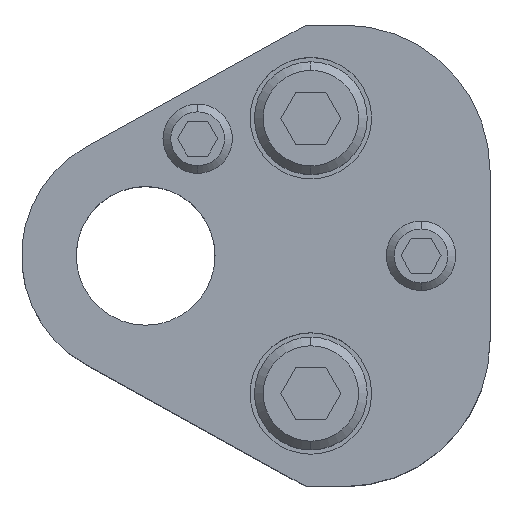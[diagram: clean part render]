
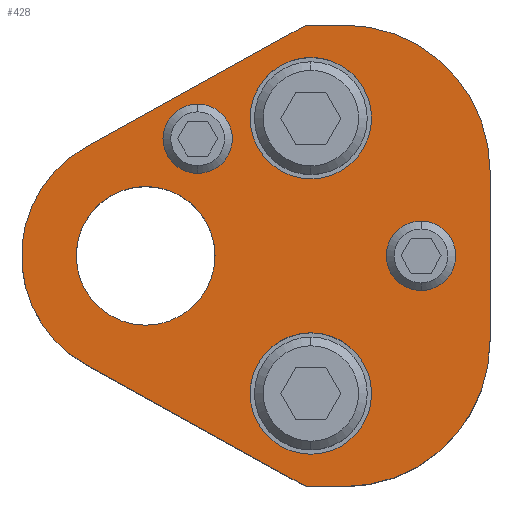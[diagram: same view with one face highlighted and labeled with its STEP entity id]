
A CAD part, top view. The second image highlights one B-rep face of the part: STEP entity #428.
In plain terms, the highlighted planar face has unit normal (0, 0, 1).
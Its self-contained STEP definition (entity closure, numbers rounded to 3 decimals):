
#198=FACE_BOUND('',#745,.T.);
#199=FACE_BOUND('',#746,.T.);
#200=FACE_BOUND('',#747,.T.);
#201=FACE_BOUND('',#748,.T.);
#202=FACE_BOUND('',#749,.T.);
#203=FACE_BOUND('',#750,.T.);
#276=CIRCLE('',#2330,16.8);
#278=CIRCLE('',#2334,16.8);
#281=CIRCLE('',#2340,14.3);
#282=CIRCLE('',#2342,4.);
#284=CIRCLE('',#2345,4.);
#286=CIRCLE('',#2348,4.);
#288=CIRCLE('',#2351,4.);
#298=CIRCLE('',#2366,7.);
#299=CIRCLE('',#2367,7.);
#300=CIRCLE('',#2368,7.);
#301=CIRCLE('',#2369,7.);
#302=CIRCLE('',#2370,8.);
#303=CIRCLE('',#2371,8.);
#428=ADVANCED_FACE('',(#198,#199,#200,#201,#202,#203),#522,.T.);
#522=PLANE('',#2372);
#745=EDGE_LOOP('',(#1129,#1130,#1131,#1132,#1133,#1134,#1135,#1136));
#746=EDGE_LOOP('',(#1137,#1138));
#747=EDGE_LOOP('',(#1139,#1140));
#748=EDGE_LOOP('',(#1141,#1142));
#749=EDGE_LOOP('',(#1143,#1144));
#750=EDGE_LOOP('',(#1145,#1146));
#1129=ORIENTED_EDGE('',*,*,#1724,.T.);
#1130=ORIENTED_EDGE('',*,*,#1728,.T.);
#1131=ORIENTED_EDGE('',*,*,#1731,.T.);
#1132=ORIENTED_EDGE('',*,*,#1734,.T.);
#1133=ORIENTED_EDGE('',*,*,#1737,.T.);
#1134=ORIENTED_EDGE('',*,*,#1740,.T.);
#1135=ORIENTED_EDGE('',*,*,#1743,.T.);
#1136=ORIENTED_EDGE('',*,*,#1746,.T.);
#1137=ORIENTED_EDGE('',*,*,#1771,.F.);
#1138=ORIENTED_EDGE('',*,*,#1772,.F.);
#1139=ORIENTED_EDGE('',*,*,#1773,.F.);
#1140=ORIENTED_EDGE('',*,*,#1774,.F.);
#1141=ORIENTED_EDGE('',*,*,#1757,.F.);
#1142=ORIENTED_EDGE('',*,*,#1753,.F.);
#1143=ORIENTED_EDGE('',*,*,#1751,.F.);
#1144=ORIENTED_EDGE('',*,*,#1747,.F.);
#1145=ORIENTED_EDGE('',*,*,#1775,.T.);
#1146=ORIENTED_EDGE('',*,*,#1776,.T.);
#1492=VERTEX_POINT('',#3476);
#1493=VERTEX_POINT('',#3478);
#1496=VERTEX_POINT('',#3485);
#1498=VERTEX_POINT('',#3491);
#1500=VERTEX_POINT('',#3497);
#1502=VERTEX_POINT('',#3503);
#1504=VERTEX_POINT('',#3509);
#1506=VERTEX_POINT('',#3515);
#1507=VERTEX_POINT('',#3523);
#1508=VERTEX_POINT('',#3524);
#1511=VERTEX_POINT('',#3535);
#1512=VERTEX_POINT('',#3536);
#1523=VERTEX_POINT('',#3571);
#1524=VERTEX_POINT('',#3572);
#1525=VERTEX_POINT('',#3575);
#1526=VERTEX_POINT('',#3576);
#1527=VERTEX_POINT('',#3579);
#1528=VERTEX_POINT('',#3580);
#1724=EDGE_CURVE('',#1493,#1492,#1968,.T.);
#1728=EDGE_CURVE('',#1492,#1496,#1972,.T.);
#1731=EDGE_CURVE('',#1496,#1498,#276,.T.);
#1734=EDGE_CURVE('',#1498,#1500,#1976,.T.);
#1737=EDGE_CURVE('',#1500,#1502,#278,.T.);
#1740=EDGE_CURVE('',#1502,#1504,#1980,.T.);
#1743=EDGE_CURVE('',#1504,#1506,#1983,.T.);
#1746=EDGE_CURVE('',#1506,#1493,#281,.T.);
#1747=EDGE_CURVE('',#1507,#1508,#282,.T.);
#1751=EDGE_CURVE('',#1508,#1507,#284,.T.);
#1753=EDGE_CURVE('',#1511,#1512,#286,.T.);
#1757=EDGE_CURVE('',#1512,#1511,#288,.T.);
#1771=EDGE_CURVE('',#1523,#1524,#298,.T.);
#1772=EDGE_CURVE('',#1524,#1523,#299,.T.);
#1773=EDGE_CURVE('',#1525,#1526,#300,.T.);
#1774=EDGE_CURVE('',#1526,#1525,#301,.T.);
#1775=EDGE_CURVE('',#1527,#1528,#302,.T.);
#1776=EDGE_CURVE('',#1528,#1527,#303,.T.);
#1968=LINE('',#3477,#2132);
#1972=LINE('',#3486,#2136);
#1976=LINE('',#3498,#2140);
#1980=LINE('',#3510,#2144);
#1983=LINE('',#3516,#2147);
#2132=VECTOR('',#2758,1.);
#2136=VECTOR('',#2764,1.);
#2140=VECTOR('',#2776,1.);
#2144=VECTOR('',#2788,1.);
#2147=VECTOR('',#2793,1.);
#2330=AXIS2_PLACEMENT_3D('',#3492,#2769,#2770);
#2334=AXIS2_PLACEMENT_3D('',#3504,#2781,#2782);
#2340=AXIS2_PLACEMENT_3D('',#3520,#2799,#2800);
#2342=AXIS2_PLACEMENT_3D('',#3522,#2803,#2804);
#2345=AXIS2_PLACEMENT_3D('',#3531,#2811,#2812);
#2348=AXIS2_PLACEMENT_3D('',#3534,#2817,#2818);
#2351=AXIS2_PLACEMENT_3D('',#3543,#2825,#2826);
#2366=AXIS2_PLACEMENT_3D('',#3570,#2859,#2860);
#2367=AXIS2_PLACEMENT_3D('',#3573,#2861,#2862);
#2368=AXIS2_PLACEMENT_3D('',#3574,#2863,#2864);
#2369=AXIS2_PLACEMENT_3D('',#3577,#2865,#2866);
#2370=AXIS2_PLACEMENT_3D('',#3578,#2867,#2868);
#2371=AXIS2_PLACEMENT_3D('',#3581,#2869,#2870);
#2372=AXIS2_PLACEMENT_3D('',#3582,#2871,#2872);
#2758=DIRECTION('',(0.875,-0.485,0.));
#2764=DIRECTION('',(1.,0.,0.));
#2769=DIRECTION('',(0.,0.,1.));
#2770=DIRECTION('',(-0.707,0.707,0.));
#2776=DIRECTION('',(0.,1.,0.));
#2781=DIRECTION('',(0.,0.,1.));
#2782=DIRECTION('',(-0.707,-0.707,0.));
#2788=DIRECTION('',(-1.,0.,0.));
#2793=DIRECTION('',(-0.875,-0.485,0.));
#2799=DIRECTION('',(0.,0.,1.));
#2800=DIRECTION('',(1.,0.,0.));
#2803=DIRECTION('',(0.,0.,1.));
#2804=DIRECTION('',(-1.,0.,0.));
#2811=DIRECTION('',(0.,0.,1.));
#2812=DIRECTION('',(1.,0.,0.));
#2817=DIRECTION('',(0.,0.,1.));
#2818=DIRECTION('',(-1.,0.,0.));
#2825=DIRECTION('',(0.,0.,1.));
#2826=DIRECTION('',(1.,0.,0.));
#2859=DIRECTION('',(0.,0.,1.));
#2860=DIRECTION('',(1.,0.,0.));
#2861=DIRECTION('',(0.,0.,1.));
#2862=DIRECTION('',(-1.,0.,0.));
#2863=DIRECTION('',(0.,0.,1.));
#2864=DIRECTION('',(1.,0.,0.));
#2865=DIRECTION('',(0.,0.,1.));
#2866=DIRECTION('',(-1.,0.,0.));
#2867=DIRECTION('',(0.,0.,-1.));
#2868=DIRECTION('',(-1.,0.,0.));
#2869=DIRECTION('',(0.,0.,-1.));
#2870=DIRECTION('',(1.,0.,0.));
#2871=DIRECTION('',(0.,0.,1.));
#2872=DIRECTION('',(-0.875,0.485,0.));
#3476=CARTESIAN_POINT('',(18.492,-26.6,25.));
#3477=CARTESIAN_POINT('',(18.492,-26.6,25.));
#3478=CARTESIAN_POINT('',(-6.933,-12.507,25.));
#3485=CARTESIAN_POINT('',(22.9,-26.6,25.));
#3486=CARTESIAN_POINT('',(18.492,-26.6,25.));
#3491=CARTESIAN_POINT('',(39.7,-9.8,25.));
#3492=CARTESIAN_POINT('',(22.9,-9.8,25.));
#3497=CARTESIAN_POINT('',(39.7,9.8,25.));
#3498=CARTESIAN_POINT('',(39.7,9.8,25.));
#3503=CARTESIAN_POINT('',(22.9,26.6,25.));
#3504=CARTESIAN_POINT('',(22.9,9.8,25.));
#3509=CARTESIAN_POINT('',(18.492,26.6,25.));
#3510=CARTESIAN_POINT('',(18.492,26.6,25.));
#3515=CARTESIAN_POINT('',(-6.933,12.507,25.));
#3516=CARTESIAN_POINT('',(18.492,26.6,25.));
#3520=CARTESIAN_POINT('',(0.,0.,25.));
#3522=CARTESIAN_POINT('',(6.,13.5,25.));
#3523=CARTESIAN_POINT('',(6.,9.5,25.));
#3524=CARTESIAN_POINT('',(6.,17.5,25.));
#3531=CARTESIAN_POINT('',(6.,13.5,25.));
#3534=CARTESIAN_POINT('',(31.75,0.,25.));
#3535=CARTESIAN_POINT('',(31.75,-4.,25.));
#3536=CARTESIAN_POINT('',(31.75,4.,25.));
#3543=CARTESIAN_POINT('',(31.75,0.,25.));
#3570=CARTESIAN_POINT('',(19.05,15.87,25.));
#3571=CARTESIAN_POINT('',(19.05,22.87,25.));
#3572=CARTESIAN_POINT('',(19.05,8.87,25.));
#3573=CARTESIAN_POINT('',(19.05,15.87,25.));
#3574=CARTESIAN_POINT('',(19.05,-15.87,25.));
#3575=CARTESIAN_POINT('',(19.05,-8.87,25.));
#3576=CARTESIAN_POINT('',(19.05,-22.87,25.));
#3577=CARTESIAN_POINT('',(19.05,-15.87,25.));
#3578=CARTESIAN_POINT('',(0.,0.,25.));
#3579=CARTESIAN_POINT('',(0.,8.,25.));
#3580=CARTESIAN_POINT('',(0.,-8.,25.));
#3581=CARTESIAN_POINT('',(0.,0.,25.));
#3582=CARTESIAN_POINT('',(-6.933,-12.507,25.));
